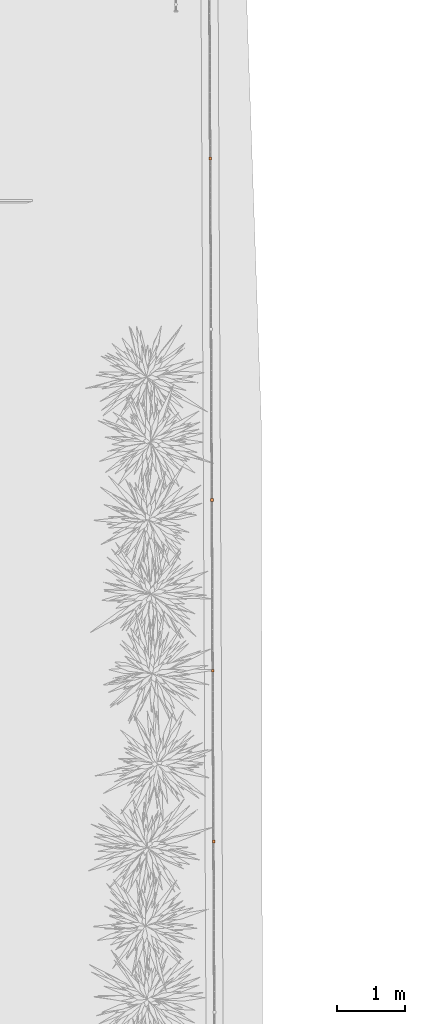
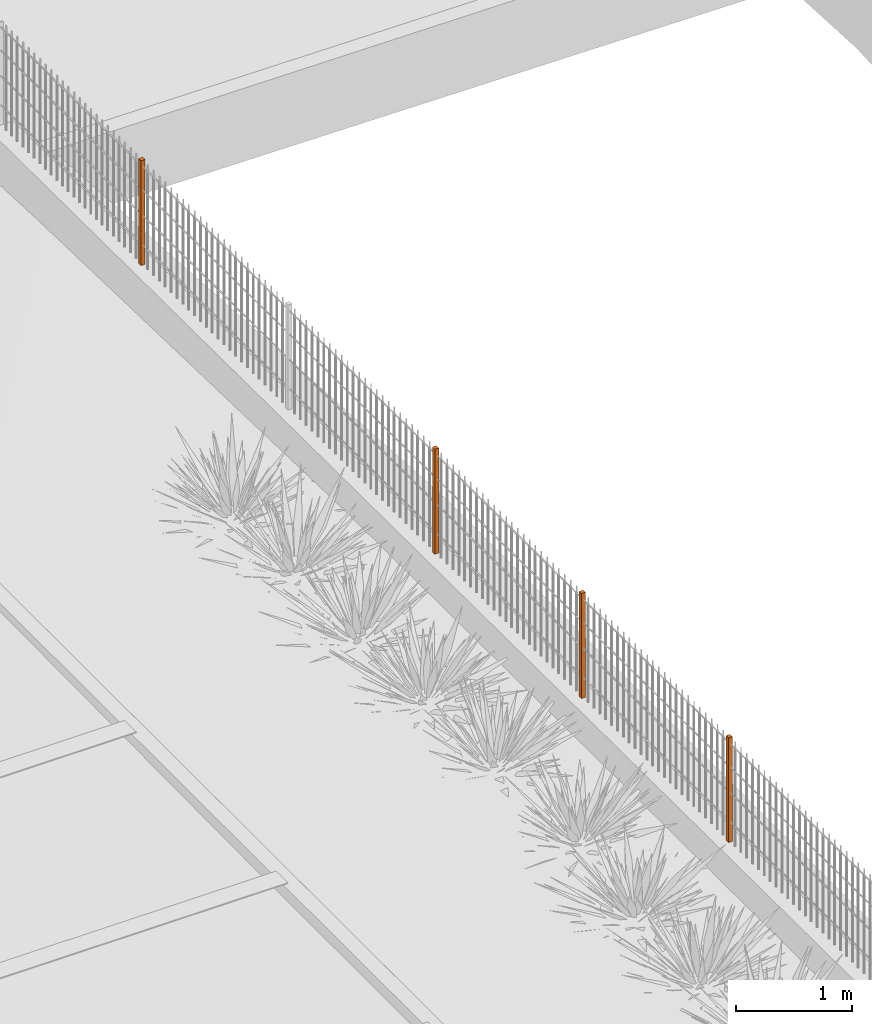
# One storey, part 32 of 1809: 4 proxies, 1 element without a shape of its own.
"""IFC2X3 building model written with IfcOpenShell, lengths in millimetres."""

import ifcopenshell
import ifcopenshell.guid

model = None  # the IFC model being written
_history = None  # IfcOwnerHistory: only IFC2X3 demands one
_inside = {}  # id of a spatial element -> (the spatial element, [elements in it])
_under = {}  # id of a project, library or spatial element -> (it, [spatial elements below it])
_declared = {}  # id of a project -> (the project, [libraries it declares])
_typed = {}  # id of a type object -> (the type object, [elements of that type])
_made_of = {}  # id of a material, layer set ... -> (it, [elements and type objects made of it])


def new_model(schema):
    """Start an empty IFC model of exactly this schema.

    Asked for "IFC4X3", IfcOpenShell would pick the latest addendum, in which some entities
    have other attributes; the version numbers below select the first issue.
    IFC2X3 requires an IfcOwnerHistory on every rooted entity: one is made here for all.
    """
    global model, _history
    if schema == "IFC4X3":
        model = ifcopenshell.file(schema_version=(4, 3, 0, 0))
    else:
        model = ifcopenshell.file(schema=schema)
    _inside.clear()
    _under.clear()
    _declared.clear()
    _typed.clear()
    _made_of.clear()
    _history = None
    if model.schema == "IFC2X3":
        org = make("IfcOrganization", Name="unknown")
        user = make(
            "IfcPersonAndOrganization",
            ThePerson=make("IfcPerson", FamilyName="unknown"),
            TheOrganization=org,
        )
        app = make(
            "IfcApplication",
            ApplicationDeveloper=org,
            Version="unknown",
            ApplicationFullName="unknown",
            ApplicationIdentifier="unknown",
        )
        _history = make(
            "IfcOwnerHistory",
            OwningUser=user,
            OwningApplication=app,
            ChangeAction="ADDED",
            CreationDate=0,
        )
    return model


def make(cls, **values):
    """One entity of the class cls with the attributes given. An attribute that is None is left unset."""
    return model.create_entity(
        cls, **{name: value for name, value in values.items() if value is not None}
    )


def entity(cls, *values):
    """Any entity or typed value of the class cls, its attributes in the order of the schema. None: left unset."""
    e = model.create_entity(cls)
    for i, value in enumerate(values):
        if value is not None:
            e[i] = value
    return e


def rooted(cls, **values):
    """An entity with a GlobalId (a new one), such as an element, a storey or a relation."""
    return make(cls, GlobalId=ifcopenshell.guid.new(), OwnerHistory=_history, **values)


def si_unit(unit_type, name, prefix=None):
    """IfcSIUnit, for example si_unit("LENGTHUNIT", "METRE", prefix="MILLI")."""
    return make("IfcSIUnit", UnitType=unit_type, Prefix=prefix, Name=name)


def converted_unit(unit_type, name, factor, base, dimensions=None, offset=None):
    """IfcConversionBasedUnit, such as the inch: factor (a typed value) times the base unit."""
    return make(
        "IfcConversionBasedUnit"
        if offset is None
        else "IfcConversionBasedUnitWithOffset",
        ConversionOffset=offset,
        Dimensions=None
        if dimensions is None
        else entity("IfcDimensionalExponents", *dimensions),
        UnitType=unit_type,
        Name=name,
        ConversionFactor=make(
            "IfcMeasureWithUnit", ValueComponent=factor, UnitComponent=base
        ),
    )


def derived_unit(unit_type, elements):
    """IfcDerivedUnit: a product of units, each with its exponent."""
    return make(
        "IfcDerivedUnit",
        Elements=[
            make("IfcDerivedUnitElement", Unit=unit, Exponent=power)
            for unit, power in elements
        ],
        UnitType=unit_type,
    )


def money_unit(currency):
    """IfcMonetaryUnit."""
    return make("IfcMonetaryUnit", Currency=currency)


def assignment(units):
    """IfcUnitAssignment: the units of a project."""
    return None if units is None else make("IfcUnitAssignment", Units=units)


def point(xyz):
    """IfcCartesianPoint."""
    return None if xyz is None else make("IfcCartesianPoint", Coordinates=xyz)


def direction(xyz):
    """IfcDirection."""
    return None if xyz is None else make("IfcDirection", DirectionRatios=xyz)


def frame(location, z_axis=None, x_axis=None):
    """IfcAxis2Placement3D, a coordinate frame: its origin and axes. An axis left out is left unset."""
    return make(
        "IfcAxis2Placement3D",
        Location=point(location),
        Axis=direction(z_axis),
        RefDirection=direction(x_axis),
    )


def origin_with_axes():
    """The frame at (0, 0, 0) with the z axis (0, 0, 1) and the x axis (1, 0, 0) written out."""
    return frame((0.0, 0.0, 0.0), z_axis=(0.0, 0.0, 1.0), x_axis=(1.0, 0.0, 0.0))


def place(relative_to, where):
    """IfcLocalPlacement: puts the frame where relative to a parent placement (None: the world)."""
    return make(
        "IfcLocalPlacement", PlacementRelTo=relative_to, RelativePlacement=where
    )


def context(
    kind, dimensions, precision=None, world=None, true_north=None, identifier=None
):
    """IfcGeometricRepresentationContext, for example the 3D "Model" context."""
    return make(
        "IfcGeometricRepresentationContext",
        ContextIdentifier=identifier,
        ContextType=kind,
        CoordinateSpaceDimension=dimensions,
        Precision=precision,
        WorldCoordinateSystem=world,
        TrueNorth=true_north,
    )


def subcontext(parent, identifier, kind, view, scale=None):
    """IfcGeometricRepresentationSubContext, for example "Body" below "Model"."""
    return make(
        "IfcGeometricRepresentationSubContext",
        ContextIdentifier=identifier,
        ContextType=kind,
        ParentContext=parent,
        TargetScale=scale,
        TargetView=view,
    )


def project(units=None, contexts=None):
    """IfcProject with its units and contexts."""
    return rooted(
        "IfcProject",
        Name="project",
        RepresentationContexts=contexts,
        UnitsInContext=assignment(units),
    )


def spatial(cls, under=None, at=None, **own):
    """A site, building, storey or space (cls), placed at a placement, below another one or the project."""
    s = rooted(cls, ObjectPlacement=at, **own)
    if under is not None:
        _under.setdefault(under.id(), (under, []))[1].append(s)
    return s


def faces_of(points, faces, orient=None, outer=None):
    """IfcFace entities. A face is a list of loops; a loop is a list of indices into points, from 0.

    orient and outer hold one flag for each loop. By default every Orientation is true, the
    first loop of a face is its IfcFaceOuterBound and the others are IfcFaceBound.
    """
    made = []
    for i, loops in enumerate(faces):
        bounds = []
        for j, loop in enumerate(loops):
            is_outer = j == 0 if outer is None else outer[i][j]
            bounds.append(
                make(
                    "IfcFaceOuterBound" if is_outer else "IfcFaceBound",
                    Bound=make("IfcPolyLoop", Polygon=[points[k] for k in loop]),
                    Orientation=True if orient is None else orient[i][j],
                )
            )
        made.append(make("IfcFace", Bounds=bounds))
    return made


def faceted_brep(points, faces, orient=None, outer=None, voids=None):
    """IfcFacetedBrep: a solid bounded by flat faces; with voids (closed shells), ...WithVoids."""
    shared = [point(p) for p in points]
    hull = make("IfcClosedShell", CfsFaces=faces_of(shared, faces, orient, outer))
    if voids is None:
        return make("IfcFacetedBrep", Outer=hull)
    return make(
        "IfcFacetedBrepWithVoids",
        Outer=hull,
        Voids=[
            make(cls, CfsFaces=faces_of(shared, fs, o, b)) for cls, fs, o, b in voids
        ],
    )


def shape(context_of_items, identifier, shape_type, items):
    """IfcShapeRepresentation: the items that make up one representation, for example the "Body"."""
    return make(
        "IfcShapeRepresentation",
        ContextOfItems=context_of_items,
        RepresentationIdentifier=identifier,
        RepresentationType=shape_type,
        Items=items,
    )


def source(mapping_origin, context_of_items, identifier, shape_type, items):
    """IfcRepresentationMap: a shape defined once, which mapped items show again and again."""
    return make(
        "IfcRepresentationMap",
        MappingOrigin=mapping_origin,
        MappedRepresentation=shape(context_of_items, identifier, shape_type, items),
    )


def transform(
    local_origin,
    x_axis=None,
    y_axis=None,
    z_axis=None,
    scale=None,
    scale2=None,
    scale3=None,
    uniform=True,
):
    """IfcCartesianTransformationOperator3D, or its non-uniform kind. x_axis, y_axis, z_axis: its Axis1, 2, 3."""
    if uniform:
        return make(
            "IfcCartesianTransformationOperator3D",
            Axis1=direction(x_axis),
            Axis2=direction(y_axis),
            LocalOrigin=point(local_origin),
            Scale=scale,
            Axis3=direction(z_axis),
        )
    return make(
        "IfcCartesianTransformationOperator3DnonUniform",
        Axis1=direction(x_axis),
        Axis2=direction(y_axis),
        LocalOrigin=point(local_origin),
        Scale=scale,
        Axis3=direction(z_axis),
        Scale2=scale2,
        Scale3=scale3,
    )


def mapped(mapping_source, mapping_target):
    """IfcMappedItem: shows the shape of a source again, moved by a transform."""
    return make(
        "IfcMappedItem", MappingSource=mapping_source, MappingTarget=mapping_target
    )


def material(Name=None, Category=None):
    """IfcMaterial."""
    return make("IfcMaterial", Name=Name, Category=Category)


def made_of(thing, what):
    """Note that an element or type object is made of a material, layer set ...; save() writes the relation."""
    if what is not None:
        _made_of.setdefault(what.id(), (what, []))[1].append(thing)
    return thing


def type_object(cls, material=None, **own):
    """A type object (cls), such as IfcWallType, which elements share."""
    return made_of(rooted(cls, **own), material)


def element(
    cls,
    number,
    at=None,
    inside=None,
    cuts=None,
    type_object=None,
    material=None,
    context=None,
    identifier="Body",
    shape_type=None,
    held_by="IfcProductDefinitionShape",
    body=None,
    shapes=None,
    **own,
):
    """One element of the class cls, such as IfcWall. Its Tag is "e" and its number.

    at: its placement. inside: the storey or other place that contains it. cuts: it is an
    opening in that element (IfcRelVoidsElement). A single representation is given by context,
    identifier, shape_type and body (its items); several are given by shapes. held_by: the class
    of the entity that holds the representations. save() writes the other relations.
    """
    e = rooted(cls, Tag="e%d" % number, ObjectPlacement=at, **own)
    if body is not None:
        shapes = [shape(context, identifier, shape_type, body)]
    if shapes is not None:
        e.Representation = make(held_by, Representations=shapes)
    if inside is not None:
        _inside.setdefault(inside.id(), (inside, []))[1].append(e)
    if cuts is not None:
        rooted(
            "IfcRelVoidsElement", RelatingBuildingElement=cuts, RelatedOpeningElement=e
        )
    if type_object is not None:
        _typed.setdefault(type_object.id(), (type_object, []))[1].append(e)
    return made_of(e, material)


def aggregate(whole, parts):
    """IfcRelAggregates: a whole, such as a stair, and the parts it consists of."""
    return rooted("IfcRelAggregates", RelatingObject=whole, RelatedObjects=parts)


def save(model, path):
    """Write the relations noted so far, then the file.

    IfcRelAggregates (storeys below a building ...), IfcRelContainedInSpatialStructure (elements
    in a storey), IfcRelDefinesByType, IfcRelAssociatesMaterial and IfcRelDeclares: one each for
    every whole, place, type object, material and project.
    """
    for whole, parts in _under.values():
        aggregate(whole, parts)
    for where, things in _inside.values():
        rooted(
            "IfcRelContainedInSpatialStructure",
            RelatedElements=things,
            RelatingStructure=where,
        )
    for kind, things in _typed.values():
        rooted("IfcRelDefinesByType", RelatedObjects=things, RelatingType=kind)
    for what, things in _made_of.values():
        rooted("IfcRelAssociatesMaterial", RelatedObjects=things, RelatingMaterial=what)
    for by, libraries in _declared.values():
        rooted("IfcRelDeclares", RelatingContext=by, RelatedDefinitions=libraries)
    model.write(path)


model = new_model("IFC2X3")

# Units and contexts
model_context = context("Model", 3, precision=0.01, world=origin_with_axes(), true_north=direction((0.0, 1.0)))
body_context = subcontext(model_context, "Body", "Model", "MODEL_VIEW")
ifc_project = project(units=[si_unit("LENGTHUNIT", "METRE", prefix="MILLI"), si_unit("AREAUNIT", "SQUARE_METRE"), si_unit("VOLUMEUNIT", "CUBIC_METRE"), converted_unit("PLANEANGLEUNIT", "DEGREE", entity("IfcPlaneAngleMeasure", 0.0174532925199), si_unit("PLANEANGLEUNIT", "RADIAN"), dimensions=[0, 0, 0, 0, 0, 0, 0]), si_unit("SOLIDANGLEUNIT", "STERADIAN"), money_unit("EUR"), converted_unit("TIMEUNIT", "Year", entity("IfcTimeMeasure", 31556926.0), si_unit("TIMEUNIT", "SECOND"), dimensions=[0, 0, 1, 0, 0, 0, 0]), si_unit("MASSUNIT", "GRAM", prefix="KILO"), si_unit("THERMODYNAMICTEMPERATUREUNIT", "DEGREE_CELSIUS"), si_unit("LUMINOUSINTENSITYUNIT", "LUMEN"), si_unit("ENERGYUNIT", "JOULE", prefix="MEGA"), derived_unit("THERMALCONDUCTANCEUNIT", [(si_unit("POWERUNIT", "WATT"), 1), (si_unit("LENGTHUNIT", "METRE"), -1), (si_unit("THERMODYNAMICTEMPERATUREUNIT", "KELVIN"), -1)]), derived_unit("SPECIFICHEATCAPACITYUNIT", [(si_unit("ENERGYUNIT", "JOULE"), 1), (si_unit("MASSUNIT", "GRAM", prefix="KILO"), -1), (si_unit("THERMODYNAMICTEMPERATUREUNIT", "KELVIN"), -1)]), derived_unit("MASSDENSITYUNIT", [(si_unit("MASSUNIT", "GRAM", prefix="KILO"), 1), (si_unit("VOLUMEUNIT", "CUBIC_METRE"), -1)])], contexts=[model_context])

# Site, building, storey
site_placement = place(None, origin_with_axes())
site = spatial("IfcSite", under=ifc_project, at=site_placement, Name="Politse- ja Piirivalveameti ning Päästeameti ühishoone", CompositionType="ELEMENT")
building_placement = place(site_placement, origin_with_axes())
building = spatial("IfcBuilding", under=site, at=building_placement, Name="Politse- ja Piirivalveameti ning Päästeameti ühishoone", CompositionType="ELEMENT")
storey_placement = place(building_placement, origin_with_axes())
storey = spatial("IfcBuildingStorey", under=building, at=storey_placement, Name="Esimene korrus", CompositionType="ELEMENT", Elevation=0.0)

# Proxies
building_element_proxy_type_1 = type_object("IfcBuildingElementProxyType", Name="Railing Type", PredefinedType="NOTDEFINED")
proxy_1_placement = place(storey_placement, frame((88797.9754601, 13797.9382952, 177.658412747), z_axis=(0.0, 0.0, 1.0), x_axis=(1.0, 0.0, 0.0)))
proxy_1 = element("IfcBuildingElementProxy", 1, at=proxy_1_placement, inside=storey, type_object=building_element_proxy_type_1, Name="PIIRDEAED")
ifc_material = material(Name="ET-03_Raud")
building_element_proxy_type_2 = type_object("IfcBuildingElementProxyType", Name="IfcBuildingElementProxy", PredefinedType="NOTDEFINED")
shared_shape_1 = source(origin_with_axes(), body_context, "Body", "Brep", [
    faceted_brep([(20.0, 20.0, 0.0), (-20.0, 20.0, 0.0), (-20.0, 20.0, 1100.0), (20.0, 20.0, 1100.0), (20.0, -20.0, 0.0), (-20.0, -20.0, 0.0), (-20.0, -20.0, 1100.0), (20.0, -20.0, 1100.0)], [[[0, 1, 2, 3]], [[0, 4, 5, 1]], [[1, 5, 6, 2]], [[3, 2, 6, 7]], [[4, 0, 3, 7]], [[5, 4, 7, 6]]]),
])
proxy_2_placement = place(proxy_1_placement, frame((281.606483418, 14948.2116674, 0.0), z_axis=(0.0, 0.0, 1.0), x_axis=(1.0, 0.0, 0.0)))
proxy_2 = element("IfcBuildingElementProxy", 2, at=proxy_2_placement, type_object=building_element_proxy_type_2, material=ifc_material, Name="SISEPOST - 001", context=body_context, shape_type="MappedRepresentation", body=[
    mapped(shared_shape_1, transform((0.0, 0.0, 0.0), x_axis=(0.999988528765, 0.00478981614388, 0.0), y_axis=(-0.00478981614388, 0.999988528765, 0.0), z_axis=(0.0, 0.0, 1.0))),
])
shared_shape_2 = source(origin_with_axes(), body_context, "Body", "Brep", [
    faceted_brep([(20.0, 20.0, 0.0), (-20.0, 20.0, 0.0), (-20.0, 20.0, 1100.0), (20.0, 20.0, 1100.0), (20.0, -20.0, 0.0), (-20.0, -20.0, 0.0), (-20.0, -20.0, 1100.0), (20.0, -20.0, 1100.0)], [[[0, 1, 2, 3]], [[0, 4, 5, 1]], [[1, 5, 6, 2]], [[3, 2, 6, 7]], [[4, 0, 3, 7]], [[5, 4, 7, 6]]]),
])
proxy_3_placement = place(proxy_1_placement, frame((269.631943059, 17448.1829893, 0.0), z_axis=(0.0, 0.0, 1.0), x_axis=(1.0, 0.0, 0.0)))
proxy_3 = element("IfcBuildingElementProxy", 3, at=proxy_3_placement, type_object=building_element_proxy_type_2, material=ifc_material, Name="SISEPOST - 001", context=body_context, shape_type="MappedRepresentation", body=[
    mapped(shared_shape_2, transform((0.0, 0.0, 0.0), x_axis=(0.999988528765, 0.00478981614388, 0.0), y_axis=(-0.00478981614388, 0.999988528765, 0.0), z_axis=(0.0, 0.0, 1.0))),
])
proxy_4_placement = place(proxy_1_placement, frame((257.657402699, 19948.1543113, 0.0), z_axis=(0.0, 0.0, 1.0), x_axis=(1.0, 0.0, 0.0)))
proxy_4 = element("IfcBuildingElementProxy", 4, at=proxy_4_placement, type_object=building_element_proxy_type_2, material=ifc_material, Name="SISEPOST - 001", context=body_context, shape_type="MappedRepresentation", body=[
    mapped(shared_shape_2, transform((0.0, 0.0, 0.0), x_axis=(0.999988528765, 0.00478981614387, 0.0), y_axis=(-0.00478981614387, 0.999988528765, 0.0), z_axis=(0.0, 0.0, 1.0))),
])
proxy_5_placement = place(proxy_1_placement, frame((233.708321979, 24948.0969551, 0.0), z_axis=(0.0, 0.0, 1.0), x_axis=(1.0, 0.0, 0.0)))
proxy_5 = element("IfcBuildingElementProxy", 5, at=proxy_5_placement, type_object=building_element_proxy_type_2, material=ifc_material, Name="SISEPOST - 001", context=body_context, shape_type="MappedRepresentation", body=[
    mapped(shared_shape_2, transform((0.0, 0.0, 0.0), x_axis=(0.999988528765, 0.00478981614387, 0.0), y_axis=(-0.00478981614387, 0.999988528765, 0.0), z_axis=(0.0, 0.0, 1.0))),
])
aggregate(proxy_1, [proxy_2, proxy_3, proxy_4, proxy_5])

save(model, "model.ifc")
